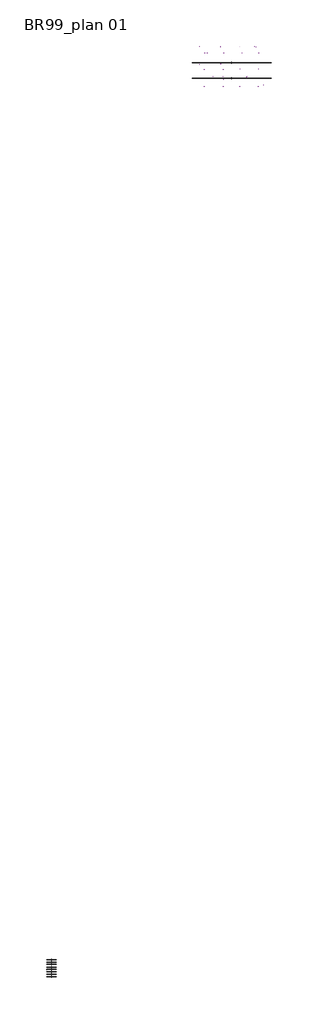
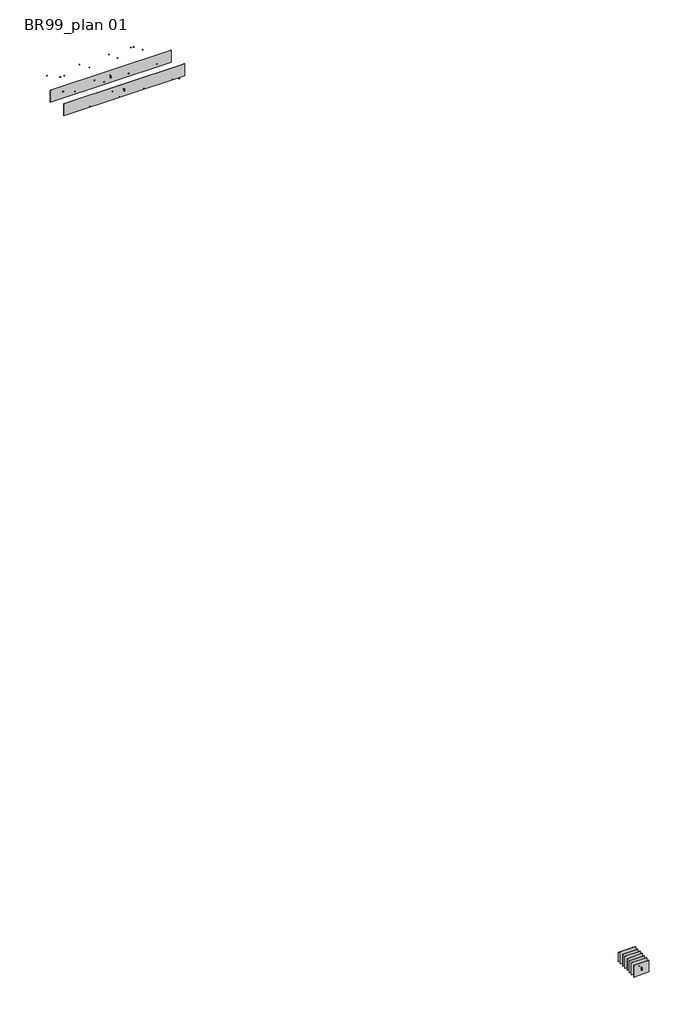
# One storey, incomplete: 22 alarms, 13 proxies.
"""IFC4 building model written with IfcOpenShell, lengths in millimetres."""

from ifc_helpers import new_model, si_unit, origin, place, context, project, spatial, transform, mapped, element, save
from components import alarm_f1b3331a, alarm_2d409914, alarm_d4f96eb5, end_of_line_tul_end_of_line_tul_aeeab75c, specialty_equipment_76ab51bc, e15_dc09da35, e30_8e1c58af, e60_daea4a7d, ei120_9daad97f, ei15_70f88291, ei30_2c21a536, ei60_0075d285, ei60_1caa0f9c, ei90_cadc9cc0

model = new_model("IFC4")

# Units and contexts
model_context = context("Model", 3, world=origin())
ifc_project = project(units=[si_unit("LENGTHUNIT", "METRE", prefix="MILLI")], contexts=[model_context])

# Site, building, storey
site = spatial("IfcSite", under=ifc_project)
building = spatial("IfcBuilding", under=site)
storey = spatial("IfcBuildingStorey", under=building, Name="BR99_plan 01", Elevation=0.0)

# Alarms
placement = place(None, origin())
alarm_shape = alarm_f1b3331a(model_context)
element("IfcAlarm", 1, ObjectType="Optiskt larmdon : Optiskt larmdon", at=placement, inside=storey, context=model_context, shape_type="MappedRepresentation", body=[
    mapped(alarm_shape, transform((28370.0, 24350.0, 0.0), x_axis=(1.0, 0.0, 0.0), y_axis=(0.0, 1.0, 0.0), z_axis=(0.0, 0.0, 1.0))),
])
element("IfcAlarm", 2, ObjectType="Optiskt larmdon : Optiskt larmdon", at=placement, inside=storey, context=model_context, shape_type="MappedRepresentation", body=[
    mapped(alarm_shape, transform((17599.1815264, 19088.0074126, 0.0), x_axis=(1.0, 0.0, 0.0), y_axis=(0.0, 1.0, 0.0), z_axis=(0.0, 0.0, 1.0))),
])
element("IfcAlarm", 3, ObjectType="Optiskt larmdon : Optiskt larmdon", at=placement, inside=storey, context=model_context, shape_type="MappedRepresentation", body=[
    mapped(alarm_shape, transform((11252.5, 18850.0, 0.0), x_axis=(1.0, 0.0, 0.0), y_axis=(0.0, 1.0, 0.0), z_axis=(0.0, 0.0, 1.0))),
])
element("IfcAlarm", 4, ObjectType="Optiskt larmdon : Optiskt larmdon", at=placement, inside=storey, context=model_context, shape_type="MappedRepresentation", body=[
    mapped(alarm_shape, transform((11252.5, 24350.0, 0.0), x_axis=(1.0, 0.0, 0.0), y_axis=(0.0, 1.0, 0.0), z_axis=(0.0, 0.0, 1.0))),
])
alarm_2_shape = alarm_2d409914(model_context)
element("IfcAlarm", 5, ObjectType="Akustiskt larmdon : Akustiskt larmdon", at=placement, inside=storey, context=model_context, shape_type="MappedRepresentation", body=[
    mapped(alarm_2_shape, transform((27871.25, 24350.0, 0.0), x_axis=(1.0, 0.0, 0.0), y_axis=(0.0, 1.0, 0.0), z_axis=(0.0, 0.0, 1.0))),
])
element("IfcAlarm", 6, ObjectType="Sirén med blixt : Sirén med blixt", at=placement, inside=storey, context=model_context, shape_type="MappedRepresentation", body=[
    mapped(alarm_2_shape, transform((23470.0, 24350.0, 0.0), x_axis=(1.0, 0.0, 0.0), y_axis=(0.0, 1.0, 0.0), z_axis=(0.0, 0.0, 1.0))),
])
element("IfcAlarm", 7, ObjectType="Larmpelare : Larmpelare", at=placement, inside=storey, context=model_context, shape_type="MappedRepresentation", body=[
    mapped(alarm_2_shape, transform((17670.0, 24350.0, 0.0), x_axis=(1.0, 0.0, 0.0), y_axis=(0.0, 1.0, 0.0), z_axis=(0.0, 0.0, 1.0))),
])
element("IfcAlarm", 8, ObjectType="Larmpelare : Larmpelare", at=placement, inside=storey, context=model_context, shape_type="MappedRepresentation", body=[
    mapped(alarm_2_shape, transform((18572.1, 14562.5, 0.0), x_axis=(1.0, 0.0, 0.0), y_axis=(0.0, 1.0, 0.0), z_axis=(0.0, 0.0, 1.0))),
])
alarm_3_shape = alarm_d4f96eb5(model_context)
element("IfcAlarm", 9, ObjectType="Rökdetektor : Rökdetektor", at=placement, inside=storey, context=model_context, shape_type="MappedRepresentation", body=[
    mapped(alarm_3_shape, transform((12784.858335, 12250.0, 0.0), x_axis=(1.0, 0.0, 0.0), y_axis=(0.0, 1.0, 0.0), z_axis=(0.0, 0.0, 1.0))),
])
element("IfcAlarm", 10, ObjectType="Rökdetektor : Rökdetektor", at=placement, inside=storey, context=model_context, shape_type="MappedRepresentation", body=[
    mapped(alarm_3_shape, transform((12784.858335, 22421.1213797, 0.0), x_axis=(1.0, 0.0, 0.0), y_axis=(0.0, 1.0, 0.0), z_axis=(0.0, 0.0, 1.0))),
])
element("IfcAlarm", 11, ObjectType="Rökdetektor : Rökdetektor", at=placement, inside=storey, context=model_context, shape_type="MappedRepresentation", body=[
    mapped(alarm_3_shape, transform((23470.0, 17521.1702857, 0.0), x_axis=(1.0, 0.0, 0.0), y_axis=(0.0, 1.0, 0.0), z_axis=(0.0, 0.0, 1.0))),
])
element("IfcAlarm", 12, ObjectType="Rökdetektor : Rökdetektor", at=placement, inside=storey, context=model_context, shape_type="MappedRepresentation", body=[
    mapped(alarm_3_shape, transform((23470.0, 12250.0, 0.0), x_axis=(1.0, 0.0, 0.0), y_axis=(0.0, 1.0, 0.0), z_axis=(0.0, 0.0, 1.0))),
])
element("IfcAlarm", 13, ObjectType="Rökdetektor : Rökdetektor", at=placement, inside=storey, context=model_context, shape_type="MappedRepresentation", body=[
    mapped(alarm_3_shape, transform((29070.0, 12250.0, 0.0), x_axis=(1.0, 0.0, 0.0), y_axis=(0.0, 1.0, 0.0), z_axis=(0.0, 0.0, 1.0))),
])
element("IfcAlarm", 14, ObjectType="Rökdetektor : Rökdetektor", at=placement, inside=storey, context=model_context, shape_type="MappedRepresentation", body=[
    mapped(alarm_3_shape, transform((29070.0, 17521.1702857, 0.0), x_axis=(1.0, 0.0, 0.0), y_axis=(0.0, 1.0, 0.0), z_axis=(0.0, 0.0, 1.0))),
])
element("IfcAlarm", 15, ObjectType="Rökdetektor : Rökdetektor", at=placement, inside=storey, context=model_context, shape_type="MappedRepresentation", body=[
    mapped(alarm_3_shape, transform((12784.858335, 17450.0, 0.0), x_axis=(1.0, 0.0, 0.0), y_axis=(0.0, 1.0, 0.0), z_axis=(0.0, 0.0, 1.0))),
])
element("IfcAlarm", 16, ObjectType="Rökdetektor : Rökdetektor", at=placement, inside=storey, context=model_context, shape_type="MappedRepresentation", body=[
    mapped(alarm_3_shape, transform((18570.0, 22421.1213797, 0.0), x_axis=(1.0, 0.0, 0.0), y_axis=(0.0, 1.0, 0.0), z_axis=(0.0, 0.0, 1.0))),
])
element("IfcAlarm", 17, ObjectType="Rökdetektor : Rökdetektor", at=placement, inside=storey, context=model_context, shape_type="MappedRepresentation", body=[
    mapped(alarm_3_shape, transform((29070.0, 22421.1213797, 0.0), x_axis=(1.0, 0.0, 0.0), y_axis=(0.0, 1.0, 0.0), z_axis=(0.0, 0.0, 1.0))),
])
element("IfcAlarm", 18, ObjectType="Rökdetektor : Rökdetektor", at=placement, inside=storey, context=model_context, shape_type="MappedRepresentation", body=[
    mapped(alarm_3_shape, transform((24052.5, 22421.1213797, 0.0), x_axis=(1.0, 0.0, 0.0), y_axis=(0.0, 1.0, 0.0), z_axis=(0.0, 0.0, 1.0))),
])
element("IfcAlarm", 19, ObjectType="Rökdetektor : Rökdetektor", at=placement, inside=storey, context=model_context, shape_type="MappedRepresentation", body=[
    mapped(alarm_3_shape, transform((18570.0, 17450.0, 0.0), x_axis=(1.0, 0.0, 0.0), y_axis=(0.0, 1.0, 0.0), z_axis=(0.0, 0.0, 1.0))),
])
element("IfcAlarm", 20, ObjectType="Rökdetektor : Rökdetektor", at=placement, inside=storey, context=model_context, shape_type="MappedRepresentation", body=[
    mapped(alarm_3_shape, transform((18570.0, 12250.0, 0.0), x_axis=(1.0, 0.0, 0.0), y_axis=(0.0, 1.0, 0.0), z_axis=(0.0, 0.0, 1.0))),
])
element("IfcAlarm", 21, ObjectType="Rökdetektor dold : Rökdetektor dold", at=placement, inside=storey, context=model_context, shape_type="MappedRepresentation", body=[
    mapped(alarm_3_shape, transform((13552.5, 22421.1213797, 0.0), x_axis=(1.0, 0.0, 0.0), y_axis=(0.0, 1.0, 0.0), z_axis=(0.0, 0.0, 1.0))),
])
end_of_line_tul_end_of_line_tul_shape = end_of_line_tul_end_of_line_tul_aeeab75c(model_context)
element("IfcAlarm", 22, ObjectType="End of Line TUL : End of Line TUL", at=placement, inside=storey, context=model_context, shape_type="MappedRepresentation", body=[
    mapped(end_of_line_tul_end_of_line_tul_shape, transform((30670.0, 12772.3575669, 0.0), x_axis=(1.0, 0.0, 0.0), y_axis=(0.0, 1.0, 0.0), z_axis=(0.0, 0.0, 1.0))),
])

# Proxies
specialty_equipment_shape = specialty_equipment_76ab51bc(model_context)
element("IfcBuildingElementProxy", 23, Name="Brandspjäll BBS : Brandspjäll BBS", ObjectType="Brandspjäll BBS : Brandspjäll BBS", at=placement, inside=storey, context=model_context, shape_type="MappedRepresentation", body=[
    mapped(specialty_equipment_shape, transform((25570.0, 15250.0, 0.0), x_axis=(1.0, 0.0, 0.0), y_axis=(0.0, 1.0, 0.0), z_axis=(0.0, 0.0, 1.0))),
])
element("IfcBuildingElementProxy", 24, Name="Brandspjäll BGS : Brandspjäll BGS", ObjectType="Brandspjäll BGS : Brandspjäll BGS", at=placement, inside=storey, context=model_context, shape_type="MappedRepresentation", body=[
    mapped(specialty_equipment_shape, transform((18370.0, 15250.0, 0.0), x_axis=(1.0, 0.0, 0.0), y_axis=(0.0, 1.0, 0.0), z_axis=(0.0, 0.0, 1.0))),
])
element("IfcBuildingElementProxy", 25, Name="Brandspjäll BSS : Brandspjäll BSS", ObjectType="Brandspjäll BSS : Brandspjäll BSS", at=placement, inside=storey, context=model_context, shape_type="MappedRepresentation", body=[
    mapped(specialty_equipment_shape, transform((15370.0, 15250.0, 0.0), x_axis=(1.0, 0.0, 0.0), y_axis=(0.0, 1.0, 0.0), z_axis=(0.0, 0.0, 1.0))),
])
e15_shape = e15_dc09da35(model_context)
element("IfcBuildingElementProxy", 26, Name="Fire_FireCompartmentationE : E15", ObjectType="Fire_FireCompartmentationE : E15", at=placement, inside=storey, context=model_context, shape_type="MappedRepresentation", body=[
    mapped(e15_shape, transform((-34831.7985538, -251067.3543842, 0.0), x_axis=(1.0, 0.0, 0.0), y_axis=(0.0, 1.0, 0.0), z_axis=(0.0, 0.0, 1.0))),
])
e30_shape = e30_8e1c58af(model_context)
element("IfcBuildingElementProxy", 27, Name="Fire_FireCompartmentationE : E30", ObjectType="Fire_FireCompartmentationE : E30", at=placement, inside=storey, context=model_context, shape_type="MappedRepresentation", body=[
    mapped(e30_shape, transform((-34831.7985538, -251817.9892436, 0.0), x_axis=(1.0, 0.0, 0.0), y_axis=(0.0, 1.0, 0.0), z_axis=(0.0, 0.0, 1.0))),
])
e60_shape = e60_daea4a7d(model_context)
element("IfcBuildingElementProxy", 28, Name="Fire_FireCompartmentationE : E60", ObjectType="Fire_FireCompartmentationE : E60", at=placement, inside=storey, context=model_context, shape_type="MappedRepresentation", body=[
    mapped(e60_shape, transform((-34831.7985538, -252567.9892436, 0.0), x_axis=(1.0, 0.0, 0.0), y_axis=(0.0, 1.0, 0.0), z_axis=(0.0, 0.0, 1.0))),
])
ei120_shape = ei120_9daad97f(model_context)
element("IfcBuildingElementProxy", 29, Name="Fire_FireCompartmentationEI : EI120", ObjectType="Fire_FireCompartmentationEI : EI120", at=placement, inside=storey, context=model_context, shape_type="MappedRepresentation", body=[
    mapped(ei120_shape, transform((-34831.7985538, -256327.9892436, 0.0), x_axis=(1.0, 0.0, 0.0), y_axis=(0.0, 1.0, 0.0), z_axis=(0.0, 0.0, 1.0))),
])
ei15_shape = ei15_70f88291(model_context)
element("IfcBuildingElementProxy", 30, Name="Fire_FireCompartmentationEI : EI15", ObjectType="Fire_FireCompartmentationEI : EI15", at=placement, inside=storey, context=model_context, shape_type="MappedRepresentation", body=[
    mapped(ei15_shape, transform((-34831.7985538, -253327.9892436, 0.0), x_axis=(1.0, 0.0, 0.0), y_axis=(0.0, 1.0, 0.0), z_axis=(0.0, 0.0, 1.0))),
])
ei30_shape = ei30_2c21a536(model_context)
element("IfcBuildingElementProxy", 31, Name="Fire_FireCompartmentationEI : EI30", ObjectType="Fire_FireCompartmentationEI : EI30", at=placement, inside=storey, context=model_context, shape_type="MappedRepresentation", body=[
    mapped(ei30_shape, transform((-34831.7985538, -254077.9892436, 0.0), x_axis=(1.0, 0.0, 0.0), y_axis=(0.0, 1.0, 0.0), z_axis=(0.0, 0.0, 1.0))),
])
ei60_shape = ei60_0075d285(model_context)
element("IfcBuildingElementProxy", 32, Name="Fire_FireCompartmentationEI : EI60", ObjectType="Fire_FireCompartmentationEI : EI60", at=placement, inside=storey, context=model_context, shape_type="MappedRepresentation", body=[
    mapped(ei60_shape, transform((9052.5, 19450.0, 0.0), x_axis=(1.0, 0.0, 0.0), y_axis=(0.0, 1.0, 0.0), z_axis=(0.0, 0.0, 1.0))),
])
element("IfcBuildingElementProxy", 33, Name="Fire_FireCompartmentationEI : EI60", ObjectType="Fire_FireCompartmentationEI : EI60", at=placement, inside=storey, context=model_context, shape_type="MappedRepresentation", body=[
    mapped(ei60_shape, transform((9070.0, 14850.0, 0.0), x_axis=(1.0, 0.0, 0.0), y_axis=(0.0, 1.0, 0.0), z_axis=(0.0, 0.0, 1.0))),
])
ei60_2_shape = ei60_1caa0f9c(model_context)
element("IfcBuildingElementProxy", 34, Name="Fire_FireCompartmentationEI : EI60", ObjectType="Fire_FireCompartmentationEI : EI60", at=placement, inside=storey, context=model_context, shape_type="MappedRepresentation", body=[
    mapped(ei60_2_shape, transform((-34831.7985538, -254827.9892436, 0.0), x_axis=(1.0, 0.0, 0.0), y_axis=(0.0, 1.0, 0.0), z_axis=(0.0, 0.0, 1.0))),
])
ei90_shape = ei90_cadc9cc0(model_context)
element("IfcBuildingElementProxy", 35, Name="Fire_FireCompartmentationEI : EI90", ObjectType="Fire_FireCompartmentationEI : EI90", at=placement, inside=storey, context=model_context, shape_type="MappedRepresentation", body=[
    mapped(ei90_shape, transform((-34831.7985538, -255577.9892436, 0.0), x_axis=(1.0, 0.0, 0.0), y_axis=(0.0, 1.0, 0.0), z_axis=(0.0, 0.0, 1.0))),
])

save(model, "model.ifc")
